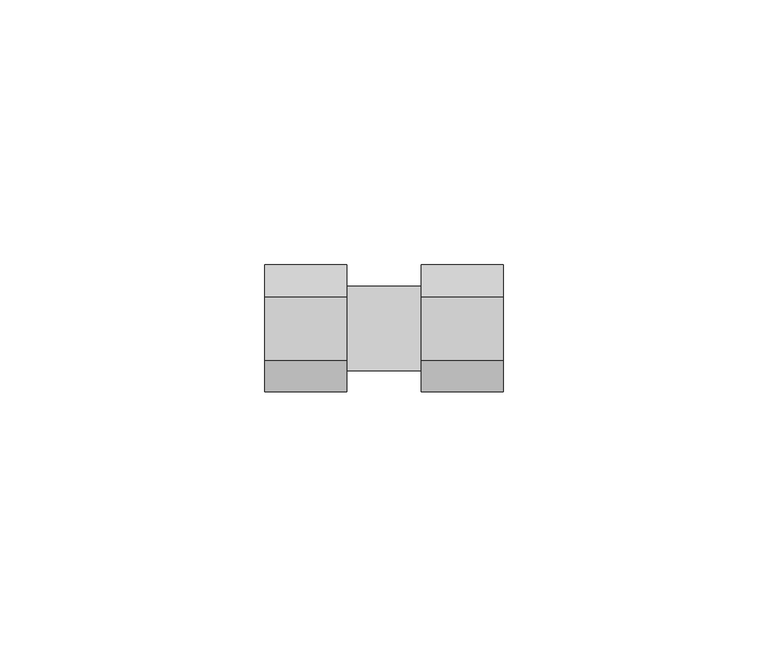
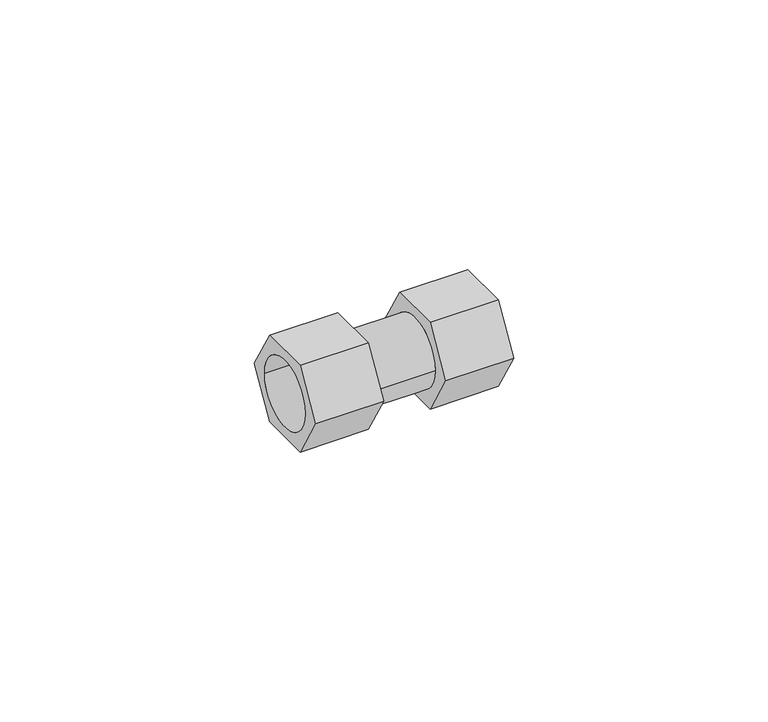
"""IFC4 building model written with IfcOpenShell, lengths in millimetres: pipe fitting geometry, БИР ПЕКС_КМП_Муфта прямая : Муфта ПЕКС Прямая."""

from ifc_helpers import new_model, si_unit, point, frame, origin, origin_2d, place, context, project, spatial, polyline, circle_curve, trimmed, segment, composite_curve, outline, extrude, source, transform, mapped, element, save


def pipe_fitting_72a85618(model_context):
    return source(origin(), model_context, "Body", "SweptSolid", [
        extrude(outline(polyline([(-6.0, -10.3923048), (-12.0, 0.0), (-6.0, 10.3923048), (6.0, 10.3923048), (12.0, 0.0), (6.0, -10.3923048), (-6.0, -10.3923048)]), holes=[composite_curve([segment(trimmed(circle_curve(origin_2d(), 8.0), [point((-8.0, 0.0))], [point((8.0, 0.0))], True, "CARTESIAN"), True, "CONTINUOUS"), segment(trimmed(circle_curve(origin_2d(), 8.0), [point((8.0, 0.0))], [point((-8.0, 0.0))], True, "CARTESIAN"), True, "CONTINUOUS")], self_intersect=False)]), frame((7.0, 0.0, 0.0), z_axis=(1.0, 0.0, 0.0), x_axis=(0.0, 1.0, 0.0)), (0.0, 0.0, 1.0), 15.5),
        extrude(outline(polyline([(-6.0, -10.3923048), (-12.0, 0.0), (-6.0, 10.3923048), (6.0, 10.3923048), (12.0, 0.0), (6.0, -10.3923048), (-6.0, -10.3923048)]), holes=[composite_curve([segment(trimmed(circle_curve(origin_2d(), 8.0), [point((-8.0, 0.0))], [point((8.0, 0.0))], True, "CARTESIAN"), True, "CONTINUOUS"), segment(trimmed(circle_curve(origin_2d(), 8.0), [point((8.0, 0.0))], [point((-8.0, 0.0))], True, "CARTESIAN"), True, "CONTINUOUS")], self_intersect=False)]), frame((-22.5, 0.0, 0.0), z_axis=(1.0, 0.0, 0.0), x_axis=(0.0, 1.0, 0.0)), (0.0, 0.0, 1.0), 15.5),
        extrude(outline(composite_curve([segment(trimmed(circle_curve(origin_2d(), 8.0), [point((-8.0, 0.0))], [point((8.0, 0.0))], False, "CARTESIAN"), True, "CONTINUOUS"), segment(trimmed(circle_curve(origin_2d(), 8.0), [point((8.0, 0.0))], [point((-8.0, 0.0))], False, "CARTESIAN"), True, "CONTINUOUS")], self_intersect=False)), frame((-7.0, 0.0, 0.0), z_axis=(1.0, 0.0, 0.0), x_axis=(0.0, 1.0, 0.0)), (0.0, 0.0, 1.0), 14.0),
    ])


if __name__ == "__main__":
    model = new_model("IFC4")
    model_context = context("Model", 3, world=origin())
    ifc_project = project(units=[si_unit("LENGTHUNIT", "METRE", prefix="MILLI")], contexts=[model_context])
    site = spatial("IfcSite", under=ifc_project)
    building = spatial("IfcBuilding", under=site)
    placement = place(None, origin())
    pipe_fitting_shape = pipe_fitting_72a85618(model_context)
    element("IfcPipeFitting", 1, ObjectType="БИР ПЕКС_КМП_Муфта прямая : Муфта ПЕКС Прямая", at=placement, inside=building, context=model_context, shape_type="MappedRepresentation", body=[
        mapped(pipe_fitting_shape, transform((0.0, 0.0, 0.0), x_axis=(1.0, 0.0, 0.0), y_axis=(0.0, 1.0, 0.0), z_axis=(0.0, 0.0, 1.0))),
    ])
    save(model, "model.ifc")
